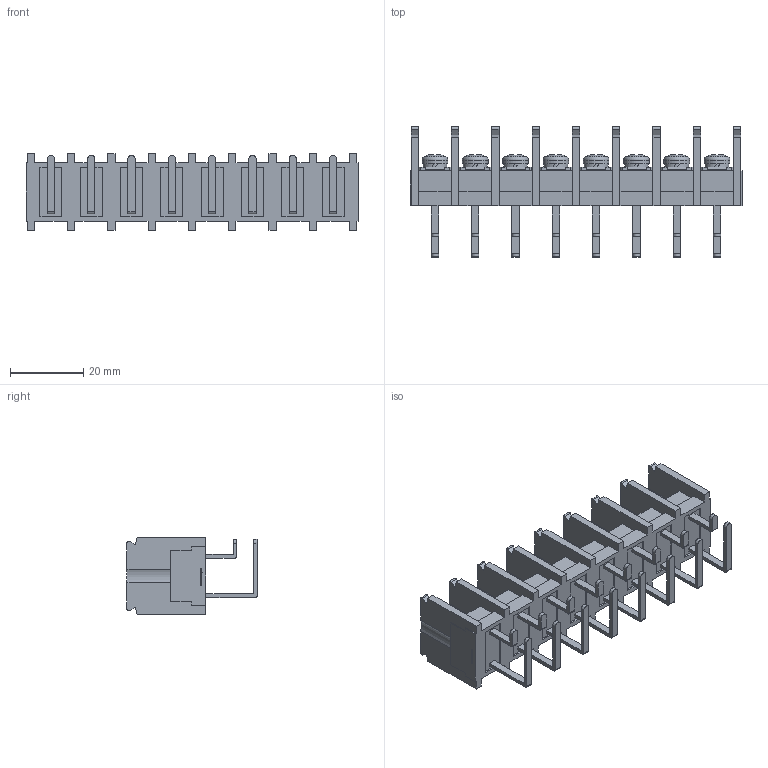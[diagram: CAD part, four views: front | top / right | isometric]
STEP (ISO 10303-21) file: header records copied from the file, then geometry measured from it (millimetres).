
FILE_DESCRIPTION(/* description */ ('Alibre Inc.'),/* implementation_level */ '2;1');
FILE_NAME(/* name */ 'export0',/* time_stamp */ '2015-12-02T12:53:23+09:00',/* author */ (''),/* organization */ (''),/* preprocessor_version */ 'ST-DEVELOPER v14',/* originating_system */ 'Alibre',/* authorisation */ '');
FILE_SCHEMA (('CONFIG_CONTROL_DESIGN'));
Length unit declared in the file: centimetre
Products named in the file (1): ID_1
Bounding box: 90.6 x 35.5 x 21 mm (x, y, z)
Volume: 16938.3 mm3; surface area: 19140.3 mm2
Topology: 1 solids, 17 shells, 1266 faces, 3452 edges, 2296 vertices
Faces by surface type: plane 990, cylinder 116, bspline 104, cone 40, sphere 8, torus 8
Full cylindrical faces by diameter (mm): 4 x8, 6.5 x8, 7 x8
Entity records: 38203 total; most frequent: CARTESIAN_POINT 8020, ORIENTED_EDGE 6840, DIRECTION 4785, EDGE_CURVE 3420, VECTOR 2623, LINE 2623, VERTEX_POINT 2296, AXIS2_PLACEMENT_3D 1533
